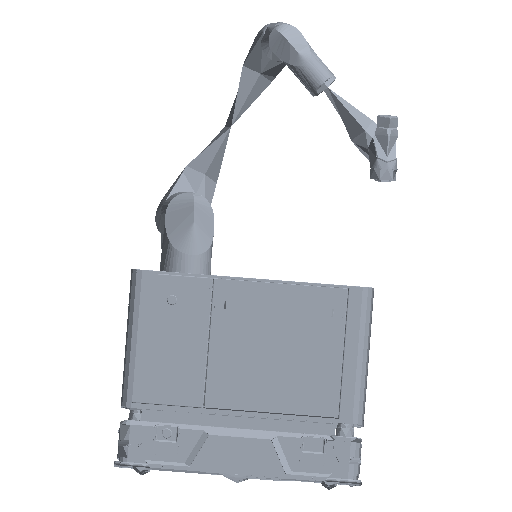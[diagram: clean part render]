
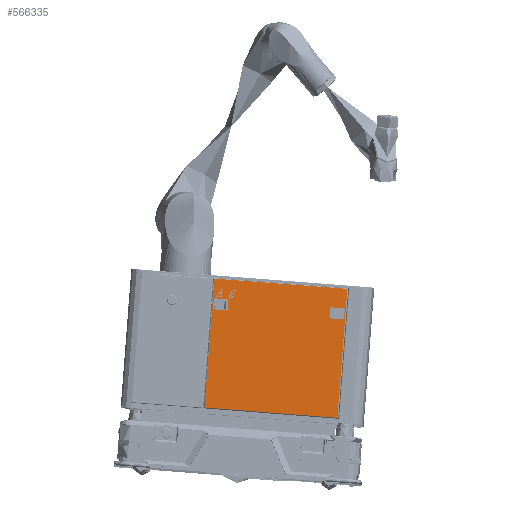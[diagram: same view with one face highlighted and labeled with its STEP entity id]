
A CAD part, top view. The second image highlights one B-rep face of the part: STEP entity #566335.
In plain terms, the highlighted planar face has unit normal (-0.003, 0.012, 1).
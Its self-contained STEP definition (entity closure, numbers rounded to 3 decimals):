
#24704 = EDGE_CURVE ( 'NONE', #227374, #641418, #859349, .T. ) ;
#37020 = ORIENTED_EDGE ( 'NONE', *, *, #696693, .F. ) ;
#49486 = ORIENTED_EDGE ( 'NONE', *, *, #195571, .T. ) ;
#65262 = VERTEX_POINT ( 'NONE', #210333 ) ;
#88467 = EDGE_CURVE ( 'NONE', #641418, #341107, #652648, .T. ) ;
#88666 = VERTEX_POINT ( 'NONE', #616677 ) ;
#102156 = LINE ( 'NONE', #487729, #840273 ) ;
#118266 = VECTOR ( 'NONE', #721767, 1000. ) ;
#128698 = PLANE ( 'NONE',  #628717 ) ;
#157644 = LINE ( 'NONE', #500432, #492944 ) ;
#187934 = CARTESIAN_POINT ( 'NONE',  ( -331.148, 859.366, 1275.25 ) ) ;
#195571 = EDGE_CURVE ( 'NONE', #279224, #809265, #809544, .T. ) ;
#202294 = VERTEX_POINT ( 'NONE', #254685 ) ;
#206610 = VECTOR ( 'NONE', #527265, 1000. ) ;
#210333 = CARTESIAN_POINT ( 'NONE',  ( 214.058, 1310.612, 1271.674 ) ) ;
#219525 = EDGE_CURVE ( 'NONE', #341107, #548143, #157644, .T. ) ;
#222255 = CARTESIAN_POINT ( 'NONE',  ( -292.949, 1236.018, 1271.003 ) ) ;
#225302 = VECTOR ( 'NONE', #459211, 1000. ) ;
#225973 = ORIENTED_EDGE ( 'NONE', *, *, #314364, .F. ) ;
#227374 = VERTEX_POINT ( 'NONE', #826308 ) ;
#228061 = CARTESIAN_POINT ( 'NONE',  ( 176.028, 818.869, 1277.255 ) ) ;
#236312 = VECTOR ( 'NONE', #479112, 1000. ) ;
#236325 = ORIENTED_EDGE ( 'NONE', *, *, #572659, .T. ) ;
#245901 = ORIENTED_EDGE ( 'NONE', *, *, #24704, .F. ) ;
#250031 = VECTOR ( 'NONE', #510887, 1000. ) ;
#251967 = CARTESIAN_POINT ( 'NONE',  ( 200.283, 1232.997, 1272.531 ) ) ;
#254685 = CARTESIAN_POINT ( 'NONE',  ( -242.394, 1267.213, 1270.794 ) ) ;
#257041 = EDGE_CURVE ( 'NONE', #809265, #65262, #308543, .T. ) ;
#267474 = CARTESIAN_POINT ( 'NONE',  ( -329.859, 859.266, 1275.255 ) ) ;
#279224 = VERTEX_POINT ( 'NONE', #267474 ) ;
#301596 = CARTESIAN_POINT ( 'NONE',  ( 152.426, 1236.696, 1272.344 ) ) ;
#308543 = LINE ( 'NONE', #228061, #118266 ) ;
#310934 = VECTOR ( 'NONE', #630054, 1000. ) ;
#313109 = CARTESIAN_POINT ( 'NONE',  ( 152.426, 1236.696, 1272.344 ) ) ;
#314364 = EDGE_CURVE ( 'NONE', #685068, #739181, #538219, .T. ) ;
#331836 = DIRECTION ( 'NONE',  ( 0.997, -0.077, 0.004 ) ) ;
#341107 = VERTEX_POINT ( 'NONE', #313109 ) ;
#345742 = CARTESIAN_POINT ( 'NONE',  ( -290.251, 1270.912, 1270.607 ) ) ;
#350283 = ORIENTED_EDGE ( 'NONE', *, *, #839626, .F. ) ;
#350627 = DIRECTION ( 'NONE',  ( 0.003, -0.012, -1. ) ) ;
#362015 = FACE_BOUND ( 'NONE', #586796, .T. ) ;
#400637 = ORIENTED_EDGE ( 'NONE', *, *, #442107, .F. ) ;
#430755 = ORIENTED_EDGE ( 'NONE', *, *, #257041, .T. ) ;
#442107 = EDGE_CURVE ( 'NONE', #548143, #227374, #799293, .T. ) ;
#448549 = LINE ( 'NONE', #222255, #638733 ) ;
#456151 = CARTESIAN_POINT ( 'NONE',  ( -292.949, 1236.018, 1271.003 ) ) ;
#456606 = VECTOR ( 'NONE', #861463, 1000. ) ;
#459211 = DIRECTION ( 'NONE',  ( 0.997, -0.077, 0.004 ) ) ;
#464346 = EDGE_LOOP ( 'NONE', ( #430755, #236325, #535671, #49486 ) ) ;
#479112 = DIRECTION ( 'NONE',  ( 0.077, 0.997, -0.011 ) ) ;
#482700 = LINE ( 'NONE', #838480, #236312 ) ;
#487729 = CARTESIAN_POINT ( 'NONE',  ( 214.058, 1310.612, 1271.674 ) ) ;
#492944 = VECTOR ( 'NONE', #800129, 1000. ) ;
#500432 = CARTESIAN_POINT ( 'NONE',  ( 149.727, 1201.803, 1272.74 ) ) ;
#506467 = ORIENTED_EDGE ( 'NONE', *, *, #88467, .F. ) ;
#510887 = DIRECTION ( 'NONE',  ( -0.997, 0.077, -0.004 ) ) ;
#527265 = DIRECTION ( 'NONE',  ( 0.997, -0.077, 0.004 ) ) ;
#535671 = ORIENTED_EDGE ( 'NONE', *, *, #608791, .T. ) ;
#538219 = LINE ( 'NONE', #456151, #225302 ) ;
#548143 = VERTEX_POINT ( 'NONE', #860975 ) ;
#566335 = ADVANCED_FACE ( 'NONE', ( #362015, #876705, #865043 ), #128698, .F. ) ;
#572659 = EDGE_CURVE ( 'NONE', #65262, #88666, #102156, .T. ) ;
#586796 = EDGE_LOOP ( 'NONE', ( #350283, #818974, #225973, #37020 ) ) ;
#608791 = EDGE_CURVE ( 'NONE', #88666, #279224, #692443, .T. ) ;
#616677 = CARTESIAN_POINT ( 'NONE',  ( -291.929, 1349.72, 1269.689 ) ) ;
#628717 = AXIS2_PLACEMENT_3D ( 'NONE', #841364, #350627, #631825 ) ;
#630054 = DIRECTION ( 'NONE',  ( -0.997, 0.077, -0.004 ) ) ;
#631825 = DIRECTION ( 'NONE',  ( -0.997, 0.077, -0.004 ) ) ;
#637616 = DIRECTION ( 'NONE',  ( -0.997, 0.077, -0.004 ) ) ;
#638733 = VECTOR ( 'NONE', #778640, 1000. ) ;
#641418 = VERTEX_POINT ( 'NONE', #251967 ) ;
#652648 = LINE ( 'NONE', #301596, #250031 ) ;
#666085 = EDGE_CURVE ( 'NONE', #739181, #202294, #482700, .T. ) ;
#666581 = CARTESIAN_POINT ( 'NONE',  ( -290.251, 1270.912, 1270.607 ) ) ;
#670907 = CARTESIAN_POINT ( 'NONE',  ( 149.727, 1201.803, 1272.74 ) ) ;
#685068 = VERTEX_POINT ( 'NONE', #759321 ) ;
#687267 = ORIENTED_EDGE ( 'NONE', *, *, #219525, .F. ) ;
#692443 = LINE ( 'NONE', #837589, #905092 ) ;
#696693 = EDGE_CURVE ( 'NONE', #897841, #685068, #448549, .T. ) ;
#719796 = VECTOR ( 'NONE', #331836, 1000. ) ;
#721767 = DIRECTION ( 'NONE',  ( 0.077, 0.997, -0.011 ) ) ;
#739181 = VERTEX_POINT ( 'NONE', #745958 ) ;
#745958 = CARTESIAN_POINT ( 'NONE',  ( -245.092, 1232.319, 1271.191 ) ) ;
#749351 = EDGE_LOOP ( 'NONE', ( #506467, #245901, #400637, #687267 ) ) ;
#759321 = CARTESIAN_POINT ( 'NONE',  ( -292.949, 1236.018, 1271.003 ) ) ;
#759520 = DIRECTION ( 'NONE',  ( -0.077, -0.997, 0.011 ) ) ;
#778640 = DIRECTION ( 'NONE',  ( -0.077, -0.997, 0.011 ) ) ;
#792574 = CARTESIAN_POINT ( 'NONE',  ( 197.584, 1198.104, 1272.927 ) ) ;
#799293 = LINE ( 'NONE', #670907, #206610 ) ;
#800129 = DIRECTION ( 'NONE',  ( -0.077, -0.997, 0.011 ) ) ;
#809265 = VERTEX_POINT ( 'NONE', #901321 ) ;
#809544 = LINE ( 'NONE', #187934, #719796 ) ;
#818974 = ORIENTED_EDGE ( 'NONE', *, *, #666085, .F. ) ;
#826308 = CARTESIAN_POINT ( 'NONE',  ( 197.584, 1198.104, 1272.927 ) ) ;
#837589 = CARTESIAN_POINT ( 'NONE',  ( -291.809, 1351.266, 1269.671 ) ) ;
#838480 = CARTESIAN_POINT ( 'NONE',  ( -245.092, 1232.319, 1271.191 ) ) ;
#839626 = EDGE_CURVE ( 'NONE', #202294, #897841, #881234, .T. ) ;
#840273 = VECTOR ( 'NONE', #637616, 1000. ) ;
#841364 = CARTESIAN_POINT ( 'NONE',  ( -57.976, 1083.967, 1273.476 ) ) ;
#859349 = LINE ( 'NONE', #792574, #456606 ) ;
#860975 = CARTESIAN_POINT ( 'NONE',  ( 149.727, 1201.803, 1272.74 ) ) ;
#861463 = DIRECTION ( 'NONE',  ( 0.077, 0.997, -0.011 ) ) ;
#865043 = FACE_OUTER_BOUND ( 'NONE', #464346, .T. ) ;
#876705 = FACE_BOUND ( 'NONE', #749351, .T. ) ;
#881234 = LINE ( 'NONE', #345742, #310934 ) ;
#897841 = VERTEX_POINT ( 'NONE', #666581 ) ;
#901321 = CARTESIAN_POINT ( 'NONE',  ( 176.128, 820.158, 1277.241 ) ) ;
#905092 = VECTOR ( 'NONE', #759520, 1000. ) ;
